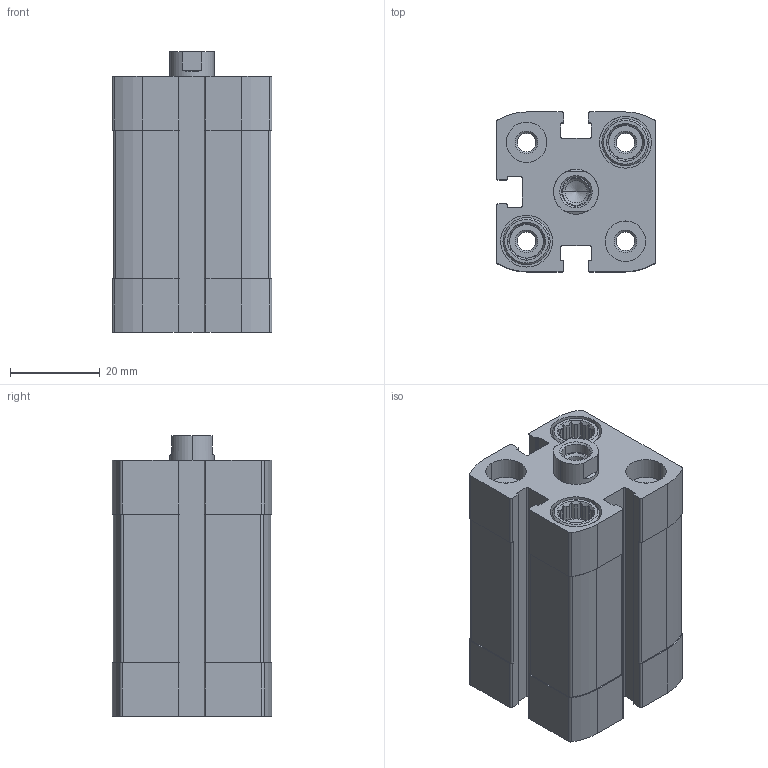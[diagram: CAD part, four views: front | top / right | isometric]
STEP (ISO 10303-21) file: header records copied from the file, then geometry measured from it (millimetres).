
FILE_DESCRIPTION (( 'STEP AP203' ), '1' );
FILE_NAME ('CCN20-20F.STEP', '2017-03-28T15:26:51', ( '' ), ( '' ), 'SwSTEP 2.0', 'SolidWorks 2016', '' );
FILE_SCHEMA (( 'CONFIG_CONTROL_DESIGN' ));
Length unit declared in the file: millimetre
Products named in the file (3): CCN-20---(Z); CCN-20_(KS); CCN20-20F
Assembly tree (2 placements, depth 2):
  CCN20-20F
    CCN-20---(Z)
    CCN-20_(KS)
Bounding box: 35.5 x 35.5 x 62.5 mm (x, y, z)
Volume: 52875.7 mm3; surface area: 23283 mm2
Topology: 2 solids, 2 shells, 407 faces, 1086 edges, 713 vertices
Faces by surface type: plane 231, cylinder 134, cone 42
Entity records: 13181 total; most frequent: CARTESIAN_POINT 2503, DIRECTION 2228, ORIENTED_EDGE 2168, EDGE_CURVE 1084, AXIS2_PLACEMENT_3D 830, VERTEX_POINT 713, VECTOR 568, LINE 568
